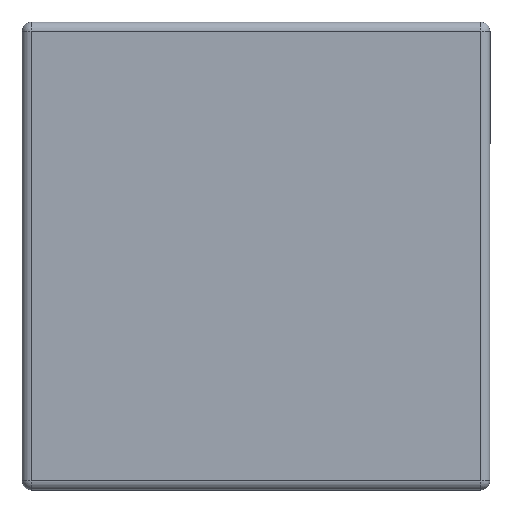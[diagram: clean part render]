
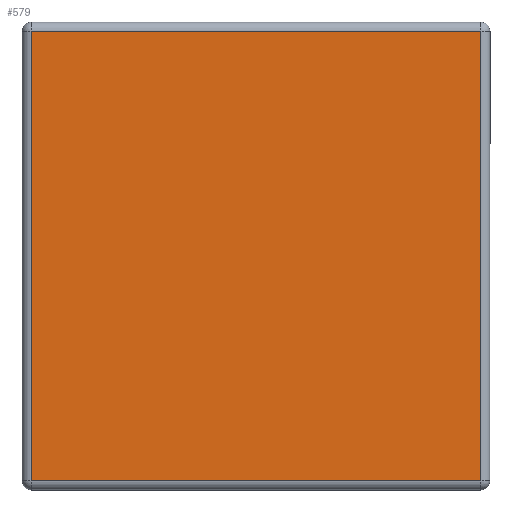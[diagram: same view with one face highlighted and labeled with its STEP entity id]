
A CAD part, front view. The second image highlights one B-rep face of the part: STEP entity #579.
In plain terms, the highlighted planar face has unit normal (0, -1, 0).
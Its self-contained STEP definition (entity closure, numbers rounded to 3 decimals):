
#38=PLANE('',#671);
#74=FACE_OUTER_BOUND('',#119,.T.);
#119=EDGE_LOOP('',(#486,#487,#488,#489));
#149=LINE('',#970,#191);
#151=LINE('',#978,#193);
#153=LINE('',#988,#195);
#155=LINE('',#997,#197);
#191=VECTOR('',#787,10.);
#193=VECTOR('',#795,10.);
#195=VECTOR('',#807,10.);
#197=VECTOR('',#819,10.);
#275=VERTEX_POINT('',#963);
#278=VERTEX_POINT('',#968);
#279=VERTEX_POINT('',#972);
#282=VERTEX_POINT('',#982);
#338=EDGE_CURVE('',#278,#275,#149,.T.);
#342=EDGE_CURVE('',#275,#279,#151,.T.);
#347=EDGE_CURVE('',#279,#282,#153,.T.);
#352=EDGE_CURVE('',#282,#278,#155,.T.);
#486=ORIENTED_EDGE('',*,*,#338,.F.);
#487=ORIENTED_EDGE('',*,*,#352,.F.);
#488=ORIENTED_EDGE('',*,*,#347,.F.);
#489=ORIENTED_EDGE('',*,*,#342,.F.);
#579=ADVANCED_FACE('',(#74),#38,.T.);
#671=AXIS2_PLACEMENT_3D('',#1020,#847,#848);
#787=DIRECTION('',(0.,0.,1.));
#795=DIRECTION('',(1.,0.,0.));
#807=DIRECTION('',(0.,0.,-1.));
#819=DIRECTION('',(-1.,0.,0.));
#847=DIRECTION('center_axis',(0.,-1.,0.));
#848=DIRECTION('ref_axis',(0.,0.,-1.));
#963=CARTESIAN_POINT('',(-24.9,0.,-0.5));
#968=CARTESIAN_POINT('',(-24.9,0.,-24.9));
#970=CARTESIAN_POINT('',(-24.9,0.,-19.05));
#972=CARTESIAN_POINT('',(-0.5,0.,-0.5));
#978=CARTESIAN_POINT('',(-19.05,0.,-0.5));
#982=CARTESIAN_POINT('',(-0.5,0.,-24.9));
#988=CARTESIAN_POINT('',(-0.5,0.,-6.35));
#997=CARTESIAN_POINT('',(-6.35,0.,-24.9));
#1020=CARTESIAN_POINT('Origin',(-12.7,0.,-12.7));
